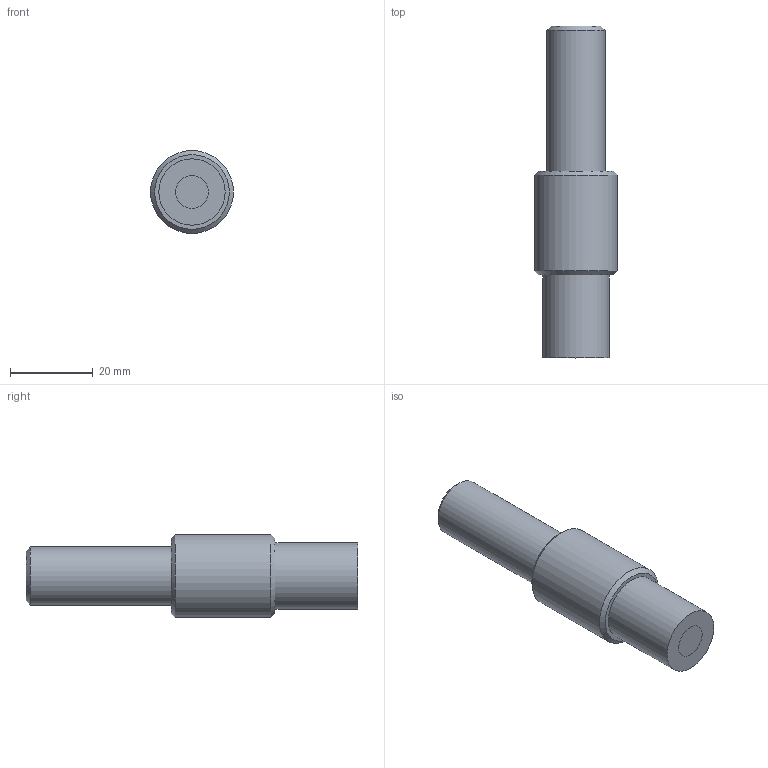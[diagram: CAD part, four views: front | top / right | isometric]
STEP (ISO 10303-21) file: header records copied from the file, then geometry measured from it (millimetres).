
FILE_DESCRIPTION(/* description */ (''),/* implementation_level */ '2;1');
FILE_NAME(/* name */ '',/* time_stamp */ '2023-04-03T16:47:31+09:00',/* author */ (''),/* organization */ (''),/* preprocessor_version */ 'ST-DEVELOPER v19.2',/* originating_system */ 'Autodesk Translation Framework v11.17.0.187',/* authorisation */ '');
FILE_SCHEMA (('AUTOMOTIVE_DESIGN { 1 0 10303 214 3 1 1 }'));
Length unit declared in the file: millimetre
Products named in the file (1): LGC1-8L共通照射部
Bounding box: 20 x 80 x 20 mm (x, y, z)
Volume: 17181.4 mm3; surface area: 8963.4 mm2
Topology: 3 solids, 3 shells, 16 faces, 24 edges, 15 vertices
Faces by surface type: plane 7, cylinder 6, cone 3
Full cylindrical faces by diameter (mm): 8 x3, 14 x1, 16 x1, 20 x1
Entity records: 398 total; most frequent: DIRECTION 73, CARTESIAN_POINT 56, ORIENTED_EDGE 48, AXIS2_PLACEMENT_3D 32, EDGE_CURVE 24, EDGE_LOOP 21, FACE_OUTER_BOUND 16, ADVANCED_FACE 16
